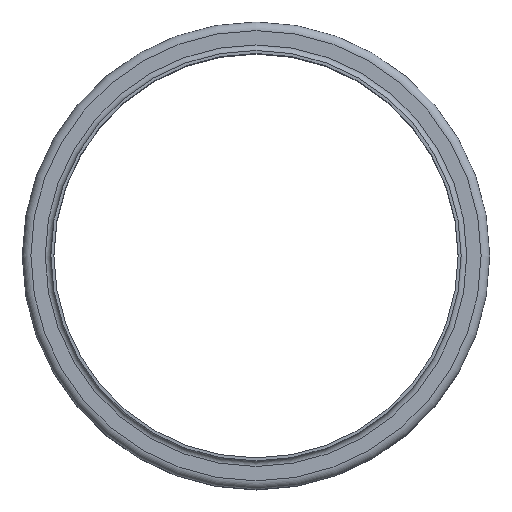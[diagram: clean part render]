
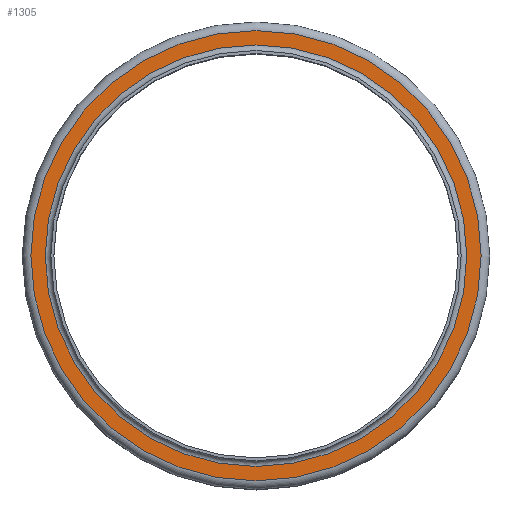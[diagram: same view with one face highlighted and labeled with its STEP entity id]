
A CAD part, top view. The second image highlights one B-rep face of the part: STEP entity #1305.
In plain terms, the highlighted planar face has unit normal (0, 0, 1).
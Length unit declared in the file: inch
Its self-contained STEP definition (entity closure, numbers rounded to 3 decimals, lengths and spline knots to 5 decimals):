
#130=FACE_BOUND('',#384,.T.);
#229=FACE_OUTER_BOUND('',#383,.T.);
#383=EDGE_LOOP('',(#1108));
#384=EDGE_LOOP('',(#1109));
#545=CIRCLE('',#1574,8.34125);
#546=CIRCLE('',#1576,8.90875);
#658=VERTEX_POINT('',#2470);
#659=VERTEX_POINT('',#2474);
#811=EDGE_CURVE('',#658,#658,#545,.T.);
#812=EDGE_CURVE('',#659,#659,#546,.T.);
#1108=ORIENTED_EDGE('',*,*,#812,.F.);
#1109=ORIENTED_EDGE('',*,*,#811,.T.);
#1206=PLANE('',#1575);
#1305=ADVANCED_FACE('',(#229,#130),#1206,.T.);
#1574=AXIS2_PLACEMENT_3D('',#2472,#2070,#2071);
#1575=AXIS2_PLACEMENT_3D('',#2473,#2072,#2073);
#1576=AXIS2_PLACEMENT_3D('',#2475,#2074,#2075);
#2070=DIRECTION('center_axis',(0.,0.,-1.));
#2071=DIRECTION('ref_axis',(1.,0.,0.));
#2072=DIRECTION('center_axis',(0.,0.,1.));
#2073=DIRECTION('ref_axis',(1.,0.,0.));
#2074=DIRECTION('center_axis',(0.,0.,-1.));
#2075=DIRECTION('ref_axis',(1.,0.,0.));
#2470=CARTESIAN_POINT('',(8.34125,0.,-0.22125));
#2472=CARTESIAN_POINT('Origin',(0.,0.,-0.22125));
#2473=CARTESIAN_POINT('Origin',(0.,8.90875,-0.22125));
#2474=CARTESIAN_POINT('',(8.90875,0.,-0.22125));
#2475=CARTESIAN_POINT('Origin',(0.,0.,-0.22125));
